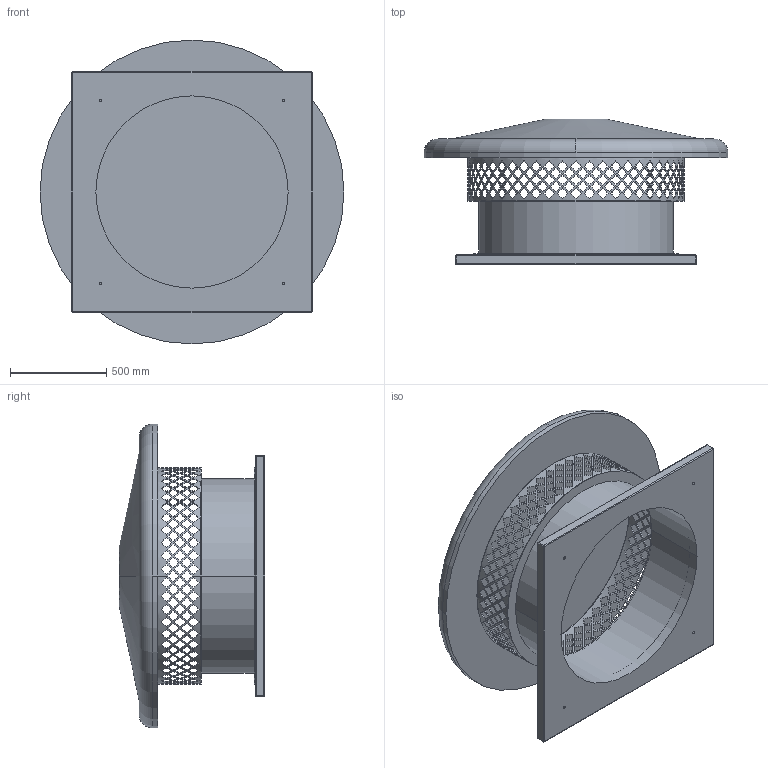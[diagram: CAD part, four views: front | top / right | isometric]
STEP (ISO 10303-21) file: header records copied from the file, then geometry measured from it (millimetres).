
FILE_DESCRIPTION(('STEP AP214'),'1');
FILE_NAME('fan_5113472400.stp','2017-03-31T12:42:00',('TraceParts'),('TraceParts S.A.'),'Spatial InterOp 3D',' ',' ');
FILE_SCHEMA(('automotive_design'));
Length unit declared in the file: millimetre
Products named in the file (1): fan_5113472400
Bounding box: 1580 x 756 x 1580 mm (x, y, z)
Volume: 290352120 mm3; surface area: 9250933.4 mm2
Topology: 1 solids, 1 shells, 1059 faces, 3160 edges, 2094 vertices
Faces by surface type: plane 1013, cylinder 32, sphere 8, torus 4, cone 2
Entity records: 46332 total; most frequent: DIRECTION 7370, CARTESIAN_POINT 6306, ORIENTED_EDGE 6304, AXIS2_PLACEMENT_3D 3158, EDGE_CURVE 3152, VERTEX_POINT 2094, ELLIPSE 2016, EDGE_LOOP 1566
